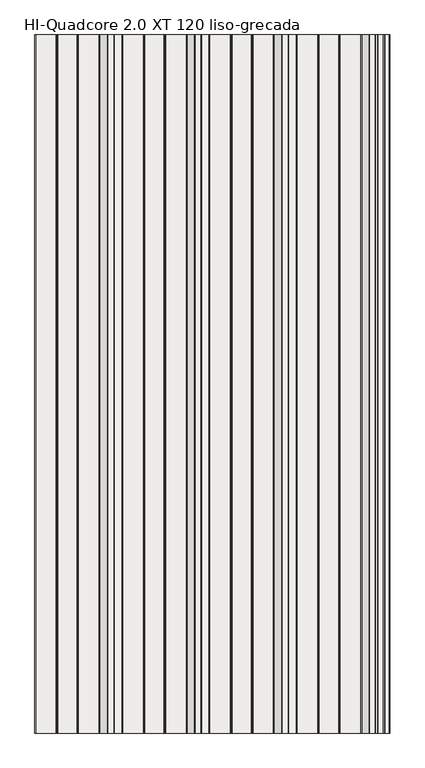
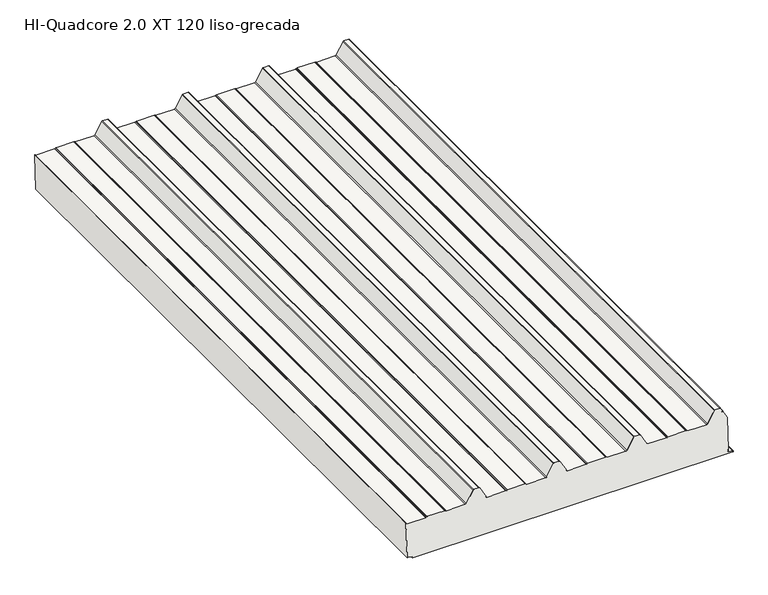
"""IFC4 building model written with IfcOpenShell, lengths in millimetres: slab geometry, HI_QuadCore2.0XT-XT DUAL : HI-Quadcore 2.0 XT 120 liso-grecada."""

from ifc_helpers import new_model, si_unit, frame, origin, place, context, project, spatial, polyline, circle_curve, source, transform, mapped, element, save
from ifc_brep_helpers import plane_surface, cylinder_surface, revolved_surface, advanced_brep


def hi_quadcore_2_0_xt_120_liso_grecada_48899863(model_context):
    return source(origin(), model_context, "Body", "AdvancedBrep", [
        advanced_brep(
        [(1181.036551, 0.0, 121.2667387), (1166.0442453, 0.0, 147.9197266), (1166.033201, 0.0, 145.939301), (1165.1031555, 0.0, 144.3282068), (1164.4103128, 0.0, 144.7281681), (1165.3403583, 0.0, 146.3392623), (1165.3469849, 0.0, 147.5275176), (1159.4120152, 0.0, 158.0785747), (1157.4945491, 0.0, 159.2), (1142.1184247, 0.0, 159.2), (1140.1940602, 0.0, 158.0662182), (1119.7447946, 0.0, 121.1583504), (1116.4208923, 0.0, 119.2), (1057.5510443, 0.0, 119.2), (1055.671532, 0.0, 119.6973596), (1053.5370944, 0.0, 120.912055), (1052.4489557, 0.0, 121.2), (997.5510443, 0.0, 121.2), (996.4629056, 0.0, 120.912055), (994.328468, 0.0, 119.6973596), (992.4489557, 0.0, 119.2), (934.2545425, 0.0, 119.2), (930.9425554, 0.0, 121.1370073), (910.1629237, 0.0, 158.0785747), (908.2454575, 0.0, 159.2), (891.7545425, 0.0, 159.2), (889.8370763, 0.0, 158.0785747), (869.0574446, 0.0, 121.1370073), (865.7454575, 0.0, 119.2), (807.5510443, 0.0, 119.2), (805.671532, 0.0, 119.6973596), (803.5370944, 0.0, 120.912055), (802.4489557, 0.0, 121.2), (747.5510443, 0.0, 121.2), (746.4629056, 0.0, 120.912055), (744.328468, 0.0, 119.6973596), (742.4489557, 0.0, 119.2), (684.2545425, 0.0, 119.2), (680.9425554, 0.0, 121.1370073), (660.1629237, 0.0, 158.0785747), (658.2454575, 0.0, 159.2), (641.7545425, 0.0, 159.2), (639.8370763, 0.0, 158.0785747), (619.0574446, 0.0, 121.1370073), (615.7454575, 0.0, 119.2), (557.5510443, 0.0, 119.2), (555.671532, 0.0, 119.6973596), (553.5370944, 0.0, 120.912055), (552.4489557, 0.0, 121.2), (497.5510443, 0.0, 121.2), (496.4629056, 0.0, 120.912055), (494.328468, 0.0, 119.6973596), (492.4489557, 0.0, 119.2), (434.2545425, 0.0, 119.2), (430.9425554, 0.0, 121.1370073), (410.1629237, 0.0, 158.0785747), (408.2454575, 0.0, 159.2), (391.7545425, 0.0, 159.2), (389.8370763, 0.0, 158.0785747), (369.0574446, 0.0, 121.1370073), (365.7454575, 0.0, 119.2), (307.5510443, 0.0, 119.2), (305.671532, 0.0, 119.6973596), (303.5370944, 0.0, 120.912055), (302.4489557, 0.0, 121.2), (247.5510443, 0.0, 121.2), (246.4629056, 0.0, 120.912055), (244.328468, 0.0, 119.6973596), (242.4489557, 0.0, 119.2), (184.6545425, 0.0, 119.2), (181.3052775, 0.0, 121.2048889), (184.4622222, 0.0, 7.0308356), (185.8457731, 0.0, 7.2414508), (185.8456418, 0.0, 11.9758652), (186.4313891, 0.0, 13.390095), (188.5375329, 0.0, 15.4963556), (189.1032183, 0.0, 14.9306702), (186.9970902, 0.0, 12.8244253), (186.6456418, 0.0, 11.9758874), (186.6457428, 0.0, 8.3337062), (187.7581044, 0.0, 7.1369439), (198.1768616, 0.0, 6.3740035), (200.7032632, 0.0, 3.5874804), (200.7033079, 0.0, 1.9756233), (201.9033408, 0.0, 0.7756565), (1197.9136557, 0.0, 0.8032689), (1199.1046782, 0.0, 2.0032686), (1199.104653, 0.0, 2.9118044), (1197.9581323, 0.0, 4.1105786), (1186.1323972, 0.0, 5.0061949), (1183.5438482, 0.0, 7.7981217), (1183.5455151, 0.0, 11.7461321), (1183.1910778, 0.0, 12.5938038), (1181.7779905, 0.0, 14.013532), (1182.3436759, 0.0, 14.5792175), (1183.757913, 0.0, 13.1650588), (181.3052775, 2000.0, 121.2048889), (184.6545425, 2000.0, 119.2), (242.4489557, 2000.0, 119.2), (244.328468, 2000.0, 119.6973596), (246.4629056, 2000.0, 120.912055), (247.5510443, 2000.0, 121.2), (302.4489557, 2000.0, 121.2), (303.5370944, 2000.0, 120.912055), (305.671532, 2000.0, 119.6973596), (307.5510443, 2000.0, 119.2), (365.7454575, 2000.0, 119.2), (369.0574446, 2000.0, 121.1370073), (389.8370763, 2000.0, 158.0785747), (391.7545425, 2000.0, 159.2), (408.2454575, 2000.0, 159.2), (410.1629237, 2000.0, 158.0785747), (430.9425554, 2000.0, 121.1370073), (434.2545425, 2000.0, 119.2), (492.4489557, 2000.0, 119.2), (494.328468, 2000.0, 119.6973596), (496.4629056, 2000.0, 120.912055), (497.5510443, 2000.0, 121.2), (552.4489557, 2000.0, 121.2), (553.5370944, 2000.0, 120.912055), (555.671532, 2000.0, 119.6973596), (557.5510443, 2000.0, 119.2), (615.7454575, 2000.0, 119.2), (619.0574446, 2000.0, 121.1370073), (639.8370763, 2000.0, 158.0785747), (641.7545425, 2000.0, 159.2), (658.2454575, 2000.0, 159.2), (660.1629237, 2000.0, 158.0785747), (680.9425554, 2000.0, 121.1370073), (684.2545425, 2000.0, 119.2), (742.4489557, 2000.0, 119.2), (744.328468, 2000.0, 119.6973596), (746.4629056, 2000.0, 120.912055), (747.5510443, 2000.0, 121.2), (802.4489557, 2000.0, 121.2), (803.5370944, 2000.0, 120.912055), (805.671532, 2000.0, 119.6973596), (807.5510443, 2000.0, 119.2), (865.7454575, 2000.0, 119.2), (869.0574446, 2000.0, 121.1370073), (889.8370763, 2000.0, 158.0785747), (891.7545425, 2000.0, 159.2), (908.2454575, 2000.0, 159.2), (910.1629237, 2000.0, 158.0785747), (930.9425554, 2000.0, 121.1370073), (934.2545425, 2000.0, 119.2), (992.4489557, 2000.0, 119.2), (994.328468, 2000.0, 119.6973596), (996.4629056, 2000.0, 120.912055), (997.5510443, 2000.0, 121.2), (1052.4489557, 2000.0, 121.2), (1053.5370944, 2000.0, 120.912055), (1055.671532, 2000.0, 119.6973596), (1057.5510443, 2000.0, 119.2), (1116.4208923, 2000.0, 119.2), (1119.7447946, 2000.0, 121.1583504), (1140.1940602, 2000.0, 158.0662182), (1142.1184247, 2000.0, 159.2), (1157.4945491, 2000.0, 159.2), (1159.4120152, 2000.0, 158.0785747), (1165.3469849, 2000.0, 147.5275176), (1165.3403583, 2000.0, 146.3392623), (1164.4103128, 2000.0, 144.7281681), (1165.1031555, 2000.0, 144.3282068), (1166.033201, 2000.0, 145.939301), (1166.0442453, 2000.0, 147.9197266), (1181.036551, 2000.0, 121.2667387), (1183.757913, 2000.0, 13.1650588), (1182.3436759, 2000.0, 14.5792175), (1181.7779905, 2000.0, 14.013532), (1183.1910778, 2000.0, 12.5938038), (1183.5455151, 2000.0, 11.7461321), (1183.5438482, 2000.0, 7.7981217), (1186.1323972, 2000.0, 5.0061949), (1197.9581323, 2000.0, 4.1105786), (1199.104653, 2000.0, 2.9118044), (1199.1046782, 2000.0, 2.0032686), (1197.9136557, 2000.0, 0.8032689), (201.9033408, 2000.0, 0.7756565), (200.7033079, 2000.0, 1.9756233), (200.7032632, 2000.0, 3.5874804), (198.1768616, 2000.0, 6.3740035), (187.7581044, 2000.0, 7.1369439), (186.6457428, 2000.0, 8.3337062), (186.6456418, 2000.0, 11.9758874), (186.9970902, 2000.0, 12.8244253), (189.1032183, 2000.0, 14.9306702), (188.5375329, 2000.0, 15.4963556), (186.4313891, 2000.0, 13.390095), (185.8456418, 2000.0, 11.9758652), (185.8457731, 2000.0, 7.2414508), (184.4622222, 2000.0, 7.0308356)],
        [
            (0, 1),
            (1, 2, circle_curve(frame((1164.3010942, 0.0, 146.9392041), z_axis=(0.0, 1.0, 0.0), x_axis=(1.0, 0.0, 0.0)), 2.0)),
            (2, 3),
            (3, 4),
            (4, 5),
            (5, 6, circle_curve(frame((1164.3010942, 0.0, 146.9392041), z_axis=(0.0, -1.0, 0.0), x_axis=(1.0, 0.0, 0.0)), 1.2)),
            (6, 7),
            (7, 8, circle_curve(frame((1157.4945491, 0.0, 157.0), z_axis=(0.0, -1.0, 0.0), x_axis=(1.0, 0.0, 0.0)), 2.2)),
            (8, 9),
            (9, 10, circle_curve(frame((1142.1184247, 0.0, 157.0), z_axis=(0.0, -1.0, 0.0), x_axis=(1.0, 0.0, 0.0)), 2.2)),
            (10, 11),
            (11, 12, circle_curve(frame((1116.4208923, 0.0, 123.0), z_axis=(0.0, 1.0, 0.0), x_axis=(1.0, 0.0, 0.0)), 3.8)),
            (12, 13),
            (13, 14, circle_curve(frame((1057.5510443, 0.0, 123.0), z_axis=(0.0, 1.0, 0.0), x_axis=(1.0, 0.0, 0.0)), 3.8)),
            (14, 15),
            (15, 16, circle_curve(frame((1052.4489557, 0.0, 119.0), z_axis=(0.0, -1.0, 0.0), x_axis=(1.0, 0.0, 0.0)), 2.2)),
            (16, 17),
            (17, 18, circle_curve(frame((997.5510443, 0.0, 119.0), z_axis=(0.0, -1.0, 0.0), x_axis=(1.0, 0.0, 0.0)), 2.2)),
            (18, 19),
            (19, 20, circle_curve(frame((992.4489557, 0.0, 123.0), z_axis=(0.0, 1.0, 0.0), x_axis=(1.0, 0.0, 0.0)), 3.8)),
            (20, 21),
            (21, 22, circle_curve(frame((934.2545425, 0.0, 123.0), z_axis=(0.0, 1.0, 0.0), x_axis=(1.0, 0.0, 0.0)), 3.8)),
            (22, 23),
            (23, 24, circle_curve(frame((908.2454575, 0.0, 157.0), z_axis=(0.0, -1.0, 0.0), x_axis=(1.0, 0.0, 0.0)), 2.2)),
            (24, 25),
            (25, 26, circle_curve(frame((891.7545425, 0.0, 157.0), z_axis=(0.0, -1.0, 0.0), x_axis=(1.0, 0.0, 0.0)), 2.2)),
            (26, 27),
            (27, 28, circle_curve(frame((865.7454575, 0.0, 123.0), z_axis=(0.0, 1.0, 0.0), x_axis=(1.0, 0.0, 0.0)), 3.8)),
            (28, 29),
            (29, 30, circle_curve(frame((807.5510443, 0.0, 123.0), z_axis=(0.0, 1.0, 0.0), x_axis=(1.0, 0.0, 0.0)), 3.8)),
            (30, 31),
            (31, 32, circle_curve(frame((802.4489557, 0.0, 119.0), z_axis=(0.0, -1.0, 0.0), x_axis=(1.0, 0.0, 0.0)), 2.2)),
            (32, 33),
            (33, 34, circle_curve(frame((747.5510443, 0.0, 119.0), z_axis=(0.0, -1.0, 0.0), x_axis=(1.0, 0.0, 0.0)), 2.2)),
            (34, 35),
            (35, 36, circle_curve(frame((742.4489557, 0.0, 123.0), z_axis=(0.0, 1.0, 0.0), x_axis=(1.0, 0.0, 0.0)), 3.8)),
            (36, 37),
            (37, 38, circle_curve(frame((684.2545425, 0.0, 123.0), z_axis=(0.0, 1.0, 0.0), x_axis=(1.0, 0.0, 0.0)), 3.8)),
            (38, 39),
            (39, 40, circle_curve(frame((658.2454575, 0.0, 157.0), z_axis=(0.0, -1.0, 0.0), x_axis=(1.0, 0.0, 0.0)), 2.2)),
            (40, 41),
            (41, 42, circle_curve(frame((641.7545425, 0.0, 157.0), z_axis=(0.0, -1.0, 0.0), x_axis=(1.0, 0.0, 0.0)), 2.2)),
            (42, 43),
            (43, 44, circle_curve(frame((615.7454575, 0.0, 123.0), z_axis=(0.0, 1.0, 0.0), x_axis=(1.0, 0.0, 0.0)), 3.8)),
            (44, 45),
            (45, 46, circle_curve(frame((557.5510443, 0.0, 123.0), z_axis=(0.0, 1.0, 0.0), x_axis=(1.0, 0.0, 0.0)), 3.8)),
            (46, 47),
            (47, 48, circle_curve(frame((552.4489557, 0.0, 119.0), z_axis=(0.0, -1.0, 0.0), x_axis=(1.0, 0.0, 0.0)), 2.2)),
            (48, 49),
            (49, 50, circle_curve(frame((497.5510443, 0.0, 119.0), z_axis=(0.0, -1.0, 0.0), x_axis=(1.0, 0.0, 0.0)), 2.2)),
            (50, 51),
            (51, 52, circle_curve(frame((492.4489557, 0.0, 123.0), z_axis=(0.0, 1.0, 0.0), x_axis=(1.0, 0.0, 0.0)), 3.8)),
            (52, 53),
            (53, 54, circle_curve(frame((434.2545425, 0.0, 123.0), z_axis=(0.0, 1.0, 0.0), x_axis=(1.0, 0.0, 0.0)), 3.8)),
            (54, 55),
            (55, 56, circle_curve(frame((408.2454575, 0.0, 157.0), z_axis=(0.0, -1.0, 0.0), x_axis=(1.0, 0.0, 0.0)), 2.2)),
            (56, 57),
            (57, 58, circle_curve(frame((391.7545425, 0.0, 157.0), z_axis=(0.0, -1.0, 0.0), x_axis=(1.0, 0.0, 0.0)), 2.2)),
            (58, 59),
            (59, 60, circle_curve(frame((365.7454575, 0.0, 123.0), z_axis=(0.0, 1.0, 0.0), x_axis=(1.0, 0.0, 0.0)), 3.8)),
            (60, 61),
            (61, 62, circle_curve(frame((307.5510443, 0.0, 123.0), z_axis=(0.0, 1.0, 0.0), x_axis=(1.0, 0.0, 0.0)), 3.8)),
            (62, 63),
            (63, 64, circle_curve(frame((302.4489557, 0.0, 119.0), z_axis=(0.0, -1.0, 0.0), x_axis=(1.0, 0.0, 0.0)), 2.2)),
            (64, 65),
            (65, 66, circle_curve(frame((247.5510443, 0.0, 119.0), z_axis=(0.0, -1.0, 0.0), x_axis=(1.0, 0.0, 0.0)), 2.2)),
            (66, 67),
            (67, 68, circle_curve(frame((242.4489557, 0.0, 123.0), z_axis=(0.0, 1.0, 0.0), x_axis=(1.0, 0.0, 0.0)), 3.8)),
            (68, 69),
            (69, 70, circle_curve(frame((184.6545425, 0.0, 123.0), z_axis=(0.0, 1.0, 0.0), x_axis=(1.0, 0.0, 0.0)), 3.8)),
            (70, 71),
            (71, 72),
            (72, 73),
            (73, 74, circle_curve(frame((187.8456418, 0.0, 11.9759207), z_axis=(0.0, 1.0, 0.0), x_axis=(1.0, 0.0, 0.0)), 2.0)),
            (74, 75),
            (75, 76),
            (76, 77),
            (77, 78, circle_curve(frame((187.8456418, 0.0, 11.9759207), z_axis=(0.0, -1.0, 0.0), x_axis=(1.0, 0.0, 0.0)), 1.2)),
            (78, 79),
            (79, 80, circle_curve(frame((187.8457428, 0.0, 8.3337394), z_axis=(0.0, -1.0, 0.0), x_axis=(1.0, 0.0, 0.0)), 1.2)),
            (80, 81),
            (81, 82, circle_curve(frame((197.9032632, 0.0, 3.5874027), z_axis=(0.0, 1.0, 0.0), x_axis=(1.0, 0.0, 0.0)), 2.8)),
            (82, 83),
            (83, 84, circle_curve(frame((201.9033076, 0.0, 1.9756562), z_axis=(0.0, -1.0, 0.0), x_axis=(1.0, 0.0, 0.0)), 1.1999997)),
            (84, 85),
            (85, 86, circle_curve(frame((1197.9046782, 0.0, 2.0032353), z_axis=(0.0, -1.0, 0.0), x_axis=(1.0, 0.0, 0.0)), 1.2)),
            (86, 87),
            (87, 88, circle_curve(frame((1197.9046533, 0.0, 2.9117711), z_axis=(0.0, -1.0, 0.0), x_axis=(1.0, 0.0, 0.0)), 1.1999997)),
            (88, 89),
            (89, 90, circle_curve(frame((1186.3438482, 0.0, 7.7981993), z_axis=(0.0, 1.0, 0.0), x_axis=(1.0, 0.0, 0.0)), 2.8)),
            (90, 91),
            (91, 92, circle_curve(frame((1182.3429645, 0.0, 11.7412455), z_axis=(0.0, -1.0, 0.0), x_axis=(1.0, 0.0, 0.0)), 1.2025605)),
            (92, 93),
            (93, 94),
            (94, 95),
            (95, 0),
            (96, 97, circle_curve(frame((184.6545425, 2000.0, 123.0), z_axis=(0.0, -1.0, 0.0), x_axis=(1.0, 0.0, 0.0)), 3.8)),
            (97, 98),
            (98, 99, circle_curve(frame((242.4489557, 2000.0, 123.0), z_axis=(0.0, -1.0, 0.0), x_axis=(1.0, 0.0, 0.0)), 3.8)),
            (99, 100),
            (100, 101, circle_curve(frame((247.5510443, 2000.0, 119.0), z_axis=(0.0, 1.0, 0.0), x_axis=(1.0, 0.0, 0.0)), 2.2)),
            (101, 102),
            (102, 103, circle_curve(frame((302.4489557, 2000.0, 119.0), z_axis=(0.0, 1.0, 0.0), x_axis=(1.0, 0.0, 0.0)), 2.2)),
            (103, 104),
            (104, 105, circle_curve(frame((307.5510443, 2000.0, 123.0), z_axis=(0.0, -1.0, 0.0), x_axis=(1.0, 0.0, 0.0)), 3.8)),
            (105, 106),
            (106, 107, circle_curve(frame((365.7454575, 2000.0, 123.0), z_axis=(0.0, -1.0, 0.0), x_axis=(1.0, 0.0, 0.0)), 3.8)),
            (107, 108),
            (108, 109, circle_curve(frame((391.7545425, 2000.0, 157.0), z_axis=(0.0, 1.0, 0.0), x_axis=(1.0, 0.0, 0.0)), 2.2)),
            (109, 110),
            (110, 111, circle_curve(frame((408.2454575, 2000.0, 157.0), z_axis=(0.0, 1.0, 0.0), x_axis=(1.0, 0.0, 0.0)), 2.2)),
            (111, 112),
            (112, 113, circle_curve(frame((434.2545425, 2000.0, 123.0), z_axis=(0.0, -1.0, 0.0), x_axis=(1.0, 0.0, 0.0)), 3.8)),
            (113, 114),
            (114, 115, circle_curve(frame((492.4489557, 2000.0, 123.0), z_axis=(0.0, -1.0, 0.0), x_axis=(1.0, 0.0, 0.0)), 3.8)),
            (115, 116),
            (116, 117, circle_curve(frame((497.5510443, 2000.0, 119.0), z_axis=(0.0, 1.0, 0.0), x_axis=(1.0, 0.0, 0.0)), 2.2)),
            (117, 118),
            (118, 119, circle_curve(frame((552.4489557, 2000.0, 119.0), z_axis=(0.0, 1.0, 0.0), x_axis=(1.0, 0.0, 0.0)), 2.2)),
            (119, 120),
            (120, 121, circle_curve(frame((557.5510443, 2000.0, 123.0), z_axis=(0.0, -1.0, 0.0), x_axis=(1.0, 0.0, 0.0)), 3.8)),
            (121, 122),
            (122, 123, circle_curve(frame((615.7454575, 2000.0, 123.0), z_axis=(0.0, -1.0, 0.0), x_axis=(1.0, 0.0, 0.0)), 3.8)),
            (123, 124),
            (124, 125, circle_curve(frame((641.7545425, 2000.0, 157.0), z_axis=(0.0, 1.0, 0.0), x_axis=(1.0, 0.0, 0.0)), 2.2)),
            (125, 126),
            (126, 127, circle_curve(frame((658.2454575, 2000.0, 157.0), z_axis=(0.0, 1.0, 0.0), x_axis=(1.0, 0.0, 0.0)), 2.2)),
            (127, 128),
            (128, 129, circle_curve(frame((684.2545425, 2000.0, 123.0), z_axis=(0.0, -1.0, 0.0), x_axis=(1.0, 0.0, 0.0)), 3.8)),
            (129, 130),
            (130, 131, circle_curve(frame((742.4489557, 2000.0, 123.0), z_axis=(0.0, -1.0, 0.0), x_axis=(1.0, 0.0, 0.0)), 3.8)),
            (131, 132),
            (132, 133, circle_curve(frame((747.5510443, 2000.0, 119.0), z_axis=(0.0, 1.0, 0.0), x_axis=(1.0, 0.0, 0.0)), 2.2)),
            (133, 134),
            (134, 135, circle_curve(frame((802.4489557, 2000.0, 119.0), z_axis=(0.0, 1.0, 0.0), x_axis=(1.0, 0.0, 0.0)), 2.2)),
            (135, 136),
            (136, 137, circle_curve(frame((807.5510443, 2000.0, 123.0), z_axis=(0.0, -1.0, 0.0), x_axis=(1.0, 0.0, 0.0)), 3.8)),
            (137, 138),
            (138, 139, circle_curve(frame((865.7454575, 2000.0, 123.0), z_axis=(0.0, -1.0, 0.0), x_axis=(1.0, 0.0, 0.0)), 3.8)),
            (139, 140),
            (140, 141, circle_curve(frame((891.7545425, 2000.0, 157.0), z_axis=(0.0, 1.0, 0.0), x_axis=(1.0, 0.0, 0.0)), 2.2)),
            (141, 142),
            (142, 143, circle_curve(frame((908.2454575, 2000.0, 157.0), z_axis=(0.0, 1.0, 0.0), x_axis=(1.0, 0.0, 0.0)), 2.2)),
            (143, 144),
            (144, 145, circle_curve(frame((934.2545425, 2000.0, 123.0), z_axis=(0.0, -1.0, 0.0), x_axis=(1.0, 0.0, 0.0)), 3.8)),
            (145, 146),
            (146, 147, circle_curve(frame((992.4489557, 2000.0, 123.0), z_axis=(0.0, -1.0, 0.0), x_axis=(1.0, 0.0, 0.0)), 3.8)),
            (147, 148),
            (148, 149, circle_curve(frame((997.5510443, 2000.0, 119.0), z_axis=(0.0, 1.0, 0.0), x_axis=(1.0, 0.0, 0.0)), 2.2)),
            (149, 150),
            (150, 151, circle_curve(frame((1052.4489557, 2000.0, 119.0), z_axis=(0.0, 1.0, 0.0), x_axis=(1.0, 0.0, 0.0)), 2.2)),
            (151, 152),
            (152, 153, circle_curve(frame((1057.5510443, 2000.0, 123.0), z_axis=(0.0, -1.0, 0.0), x_axis=(1.0, 0.0, 0.0)), 3.8)),
            (153, 154),
            (154, 155, circle_curve(frame((1116.4208923, 2000.0, 123.0), z_axis=(0.0, -1.0, 0.0), x_axis=(1.0, 0.0, 0.0)), 3.8)),
            (155, 156),
            (156, 157, circle_curve(frame((1142.1184247, 2000.0, 157.0), z_axis=(0.0, 1.0, 0.0), x_axis=(1.0, 0.0, 0.0)), 2.2)),
            (157, 158),
            (158, 159, circle_curve(frame((1157.4945491, 2000.0, 157.0), z_axis=(0.0, 1.0, 0.0), x_axis=(1.0, 0.0, 0.0)), 2.2)),
            (159, 160),
            (160, 161, circle_curve(frame((1164.3010942, 2000.0, 146.9392041), z_axis=(0.0, 1.0, 0.0), x_axis=(1.0, 0.0, 0.0)), 1.2)),
            (161, 162),
            (162, 163),
            (163, 164),
            (164, 165, circle_curve(frame((1164.3010942, 2000.0, 146.9392041), z_axis=(0.0, -1.0, 0.0), x_axis=(1.0, 0.0, 0.0)), 2.0)),
            (165, 166),
            (166, 167),
            (167, 168),
            (168, 169),
            (169, 170),
            (170, 171, circle_curve(frame((1182.3429645, 2000.0, 11.7412455), z_axis=(0.0, 1.0, 0.0), x_axis=(1.0, 0.0, 0.0)), 1.2025605)),
            (171, 172),
            (172, 173, circle_curve(frame((1186.3438482, 2000.0, 7.7981993), z_axis=(0.0, -1.0, 0.0), x_axis=(1.0, 0.0, 0.0)), 2.8)),
            (173, 174),
            (174, 175, circle_curve(frame((1197.9046533, 2000.0, 2.9117711), z_axis=(0.0, 1.0, 0.0), x_axis=(1.0, 0.0, 0.0)), 1.1999997)),
            (175, 176),
            (176, 177, circle_curve(frame((1197.9046782, 2000.0, 2.0032353), z_axis=(0.0, 1.0, 0.0), x_axis=(1.0, 0.0, 0.0)), 1.2)),
            (177, 178),
            (178, 179, circle_curve(frame((201.9033076, 2000.0, 1.9756562), z_axis=(0.0, 1.0, 0.0), x_axis=(1.0, 0.0, 0.0)), 1.1999997)),
            (179, 180),
            (180, 181, circle_curve(frame((197.9032632, 2000.0, 3.5874027), z_axis=(0.0, -1.0, 0.0), x_axis=(1.0, 0.0, 0.0)), 2.8)),
            (181, 182),
            (182, 183, circle_curve(frame((187.8457428, 2000.0, 8.3337394), z_axis=(0.0, 1.0, 0.0), x_axis=(1.0, 0.0, 0.0)), 1.2)),
            (183, 184),
            (184, 185, circle_curve(frame((187.8456418, 2000.0, 11.9759207), z_axis=(0.0, 1.0, 0.0), x_axis=(1.0, 0.0, 0.0)), 1.2)),
            (185, 186),
            (186, 187),
            (187, 188),
            (188, 189, circle_curve(frame((187.8456418, 2000.0, 11.9759207), z_axis=(0.0, -1.0, 0.0), x_axis=(1.0, 0.0, 0.0)), 2.0)),
            (189, 190),
            (190, 191),
            (191, 96),
            (0, 166),
            (165, 1),
            (164, 2),
            (163, 3),
            (162, 4),
            (161, 5),
            (160, 6),
            (159, 7),
            (158, 8),
            (157, 9),
            (156, 10),
            (155, 11),
            (154, 12),
            (153, 13),
            (152, 14),
            (151, 15),
            (150, 16),
            (149, 17),
            (148, 18),
            (147, 19),
            (146, 20),
            (145, 21),
            (144, 22),
            (143, 23),
            (142, 24),
            (141, 25),
            (140, 26),
            (139, 27),
            (138, 28),
            (137, 29),
            (136, 30),
            (135, 31),
            (134, 32),
            (133, 33),
            (132, 34),
            (131, 35),
            (130, 36),
            (129, 37),
            (128, 38),
            (127, 39),
            (126, 40),
            (125, 41),
            (124, 42),
            (123, 43),
            (122, 44),
            (121, 45),
            (120, 46),
            (119, 47),
            (118, 48),
            (117, 49),
            (116, 50),
            (115, 51),
            (114, 52),
            (113, 53),
            (112, 54),
            (111, 55),
            (110, 56),
            (109, 57),
            (108, 58),
            (107, 59),
            (106, 60),
            (105, 61),
            (104, 62),
            (103, 63),
            (102, 64),
            (101, 65),
            (100, 66),
            (99, 67),
            (98, 68),
            (97, 69),
            (96, 70),
            (191, 71),
            (95, 167),
            (76, 186),
            (185, 77),
            (184, 78),
            (183, 79),
            (182, 80),
            (181, 81),
            (180, 82),
            (179, 83),
            (86, 176),
            (175, 87),
            (174, 88),
            (173, 89),
            (172, 90),
            (171, 91),
            (75, 187),
            (72, 190),
            (189, 73),
            (188, 74),
            (170, 92),
            (169, 93),
            (168, 94),
            (178, 84),
            (177, 85),
        ],
        [
            plane_surface(frame((1181.1187881, 0.0, 118.0), z_axis=(0.0, -1.0, 0.0), x_axis=(1.0, 0.0, 0.0))),
            plane_surface(frame((1181.1187881, 2000.0, 118.0), z_axis=(0.0, 1.0, 0.0), x_axis=(-1.0, 0.0, 0.0))),
            plane_surface(frame((1181.036551, 0.0, 121.2667387), z_axis=(0.8715755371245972, 0.0, 0.4902612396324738), x_axis=(0.0, 1.0, 0.0))),
            revolved_surface(polyline([(1166.3010942, 2000.0, 146.9392041), (1166.3010942, 0.0, 146.9392041)]), (1164.3010942, 2000.0, 146.9392041), (0.0, 1.0, 0.0)),
            plane_surface(frame((1166.033201, 0.0, 145.939301), z_axis=(-0.8660533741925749, 0.0, 0.49995155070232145), x_axis=(0.0, 1.0, 0.0))),
            plane_surface(frame((1165.1031555, 0.0, 144.3282068), z_axis=(0.4999515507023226, 0.0, 0.8660533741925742), x_axis=(0.0, 1.0, 0.0))),
            plane_surface(frame((1164.4103128, 0.0, 144.7281681), z_axis=(0.8660533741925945, 0.0, -0.4999515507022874), x_axis=(0.0, 1.0, 0.0))),
            cylinder_surface(frame((1164.3010942, 2000.0, 146.9392041), z_axis=(0.0, -1.0, 0.0), x_axis=(1.0, 0.0, 0.0)), 1.2),
            plane_surface(frame((1165.3469849, 0.0, 147.5275176), z_axis=(0.8715755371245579, 0.0, 0.4902612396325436), x_axis=(0.0, 1.0, 0.0))),
            cylinder_surface(frame((1157.4945491, 2000.0, 157.0), z_axis=(0.0, -1.0, 0.0), x_axis=(1.0, 0.0, 0.0)), 2.2),
            plane_surface(frame((1157.4945491, 0.0, 159.2), z_axis=(0.0, 0.0, 1.0), x_axis=(0.0, 1.0, 0.0))),
            cylinder_surface(frame((1142.1184247, 2000.0, 157.0), z_axis=(0.0, -1.0, 0.0), x_axis=(1.0, 0.0, 0.0)), 2.2),
            plane_surface(frame((1140.1940602, 0.0, 158.0662182), z_axis=(-0.8747111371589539, 0.0, 0.48464463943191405), x_axis=(0.0, 1.0, 0.0))),
            revolved_surface(polyline([(1120.2208923, 2000.0, 123.0), (1120.2208923, 0.0, 123.0)]), (1116.4208923, 2000.0, 123.0), (0.0, 1.0, 0.0)),
            plane_surface(frame((1116.4208923, 0.0, 119.2), z_axis=(0.0, 0.0, 1.0), x_axis=(0.0, 1.0, 0.0))),
            revolved_surface(polyline([(1061.3510443, 2000.0, 123.0), (1061.3510443, 0.0, 123.0)]), (1057.5510443, 2000.0, 123.0), (0.0, 1.0, 0.0)),
            plane_surface(frame((1055.671532, 0.0, 119.6973596), z_axis=(0.49460850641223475, 0.0, 0.8691158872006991), x_axis=(0.0, 1.0, 0.0))),
            cylinder_surface(frame((1052.4489557, 2000.0, 119.0), z_axis=(0.0, -1.0, 0.0), x_axis=(1.0, 0.0, 0.0)), 2.2),
            plane_surface(frame((1052.4489557, 0.0, 121.2), z_axis=(0.0, 0.0, 1.0), x_axis=(0.0, 1.0, 0.0))),
            cylinder_surface(frame((997.5510443, 2000.0, 119.0), z_axis=(0.0, -1.0, 0.0), x_axis=(1.0, 0.0, 0.0)), 2.2),
            plane_surface(frame((996.4629056, 0.0, 120.912055), z_axis=(-0.49460850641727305, 0.0, 0.8691158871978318), x_axis=(0.0, 1.0, 0.0))),
            revolved_surface(polyline([(996.2489557, 2000.0, 123.0), (996.2489557, 0.0, 123.0)]), (992.4489557, 2000.0, 123.0), (0.0, 1.0, 0.0)),
            plane_surface(frame((992.4489557, 0.0, 119.2), z_axis=(0.0, 0.0, 1.0), x_axis=(0.0, 1.0, 0.0))),
            revolved_surface(polyline([(938.0545424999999, 2000.0, 123.0), (938.0545424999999, 0.0, 123.0)]), (934.2545425, 2000.0, 123.0), (0.0, 1.0, 0.0)),
            plane_surface(frame((930.9425554, 0.0, 121.1370073), z_axis=(0.8715755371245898, 0.0, 0.4902612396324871), x_axis=(0.0, 1.0, 0.0))),
            cylinder_surface(frame((908.2454575, 2000.0, 157.0), z_axis=(0.0, -1.0, 0.0), x_axis=(1.0, 0.0, 0.0)), 2.2),
            plane_surface(frame((908.2454575, 0.0, 159.2), z_axis=(0.0, 0.0, 1.0), x_axis=(0.0, 1.0, 0.0))),
            cylinder_surface(frame((891.7545425, 2000.0, 157.0), z_axis=(0.0, -1.0, 0.0), x_axis=(1.0, 0.0, 0.0)), 2.2),
            plane_surface(frame((889.8370763, 0.0, 158.0785747), z_axis=(-0.8715755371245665, 0.0, 0.49026123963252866), x_axis=(0.0, 1.0, 0.0))),
            revolved_surface(polyline([(869.5454575, 2000.0, 123.0), (869.5454575, 0.0, 123.0)]), (865.7454575, 2000.0, 123.0), (0.0, 1.0, 0.0)),
            plane_surface(frame((865.7454575, 0.0, 119.2), z_axis=(0.0, 0.0, 1.0), x_axis=(0.0, 1.0, 0.0))),
            revolved_surface(polyline([(811.3510442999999, 2000.0, 123.0), (811.3510442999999, 0.0, 123.0)]), (807.5510443, 2000.0, 123.0), (0.0, 1.0, 0.0)),
            plane_surface(frame((805.671532, 0.0, 119.6973596), z_axis=(0.49460850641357, 0.0, 0.8691158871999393), x_axis=(0.0, 1.0, 0.0))),
            cylinder_surface(frame((802.4489557, 2000.0, 119.0), z_axis=(0.0, -1.0, 0.0), x_axis=(1.0, 0.0, 0.0)), 2.2),
            plane_surface(frame((802.4489557, 0.0, 121.2), z_axis=(0.0, 0.0, 1.0), x_axis=(0.0, 1.0, 0.0))),
            cylinder_surface(frame((747.5510443, 2000.0, 119.0), z_axis=(0.0, -1.0, 0.0), x_axis=(1.0, 0.0, 0.0)), 2.2),
            plane_surface(frame((746.4629056, 0.0, 120.912055), z_axis=(-0.4946085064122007, 0.0, 0.8691158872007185), x_axis=(0.0, 1.0, 0.0))),
            revolved_surface(polyline([(746.2489557, 2000.0, 123.0), (746.2489557, 0.0, 123.0)]), (742.4489557, 2000.0, 123.0), (0.0, 1.0, 0.0)),
            plane_surface(frame((742.4489557, 0.0, 119.2), z_axis=(0.0, 0.0, 1.0), x_axis=(0.0, 1.0, 0.0))),
            revolved_surface(polyline([(688.0545424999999, 2000.0, 123.0), (688.0545424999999, 0.0, 123.0)]), (684.2545425, 2000.0, 123.0), (0.0, 1.0, 0.0)),
            plane_surface(frame((680.9425554, 0.0, 121.1370073), z_axis=(0.8715755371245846, 0.0, 0.49026123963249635), x_axis=(0.0, 1.0, 0.0))),
            cylinder_surface(frame((658.2454575, 2000.0, 157.0), z_axis=(0.0, -1.0, 0.0), x_axis=(1.0, 0.0, 0.0)), 2.2),
            plane_surface(frame((658.2454575, 0.0, 159.2), z_axis=(0.0, 0.0, 1.0), x_axis=(0.0, 1.0, 0.0))),
            cylinder_surface(frame((641.7545425, 2000.0, 157.0), z_axis=(0.0, -1.0, 0.0), x_axis=(1.0, 0.0, 0.0)), 2.2),
            plane_surface(frame((639.8370763, 0.0, 158.0785747), z_axis=(-0.8715755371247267, 0.0, 0.49026123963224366), x_axis=(0.0, 1.0, 0.0))),
            revolved_surface(polyline([(619.5454575, 2000.0, 123.0), (619.5454575, 0.0, 123.0)]), (615.7454575, 2000.0, 123.0), (0.0, 1.0, 0.0)),
            plane_surface(frame((615.7454575, 0.0, 119.2), z_axis=(0.0, 0.0, 1.0), x_axis=(0.0, 1.0, 0.0))),
            revolved_surface(polyline([(561.3510442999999, 2000.0, 123.0), (561.3510442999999, 0.0, 123.0)]), (557.5510443, 2000.0, 123.0), (0.0, 1.0, 0.0)),
            plane_surface(frame((555.671532, 0.0, 119.6973596), z_axis=(0.49460850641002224, 0.0, 0.8691158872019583), x_axis=(0.0, 1.0, 0.0))),
            cylinder_surface(frame((552.4489557, 2000.0, 119.0), z_axis=(0.0, -1.0, 0.0), x_axis=(1.0, 0.0, 0.0)), 2.2),
            plane_surface(frame((552.4489557, 0.0, 121.2), z_axis=(0.0, 0.0, 1.0), x_axis=(0.0, 1.0, 0.0))),
            cylinder_surface(frame((497.5510443, 2000.0, 119.0), z_axis=(0.0, -1.0, 0.0), x_axis=(1.0, 0.0, 0.0)), 2.2),
            plane_surface(frame((496.4629056, 0.0, 120.912055), z_axis=(-0.4946085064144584, 0.0, 0.8691158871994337), x_axis=(0.0, 1.0, 0.0))),
            revolved_surface(polyline([(496.2489557, 2000.0, 123.0), (496.2489557, 0.0, 123.0)]), (492.4489557, 2000.0, 123.0), (0.0, 1.0, 0.0)),
            plane_surface(frame((492.4489557, 0.0, 119.2), z_axis=(0.0, 0.0, 1.0), x_axis=(0.0, 1.0, 0.0))),
            revolved_surface(polyline([(438.0545425, 2000.0, 123.0), (438.0545425, 0.0, 123.0)]), (434.2545425, 2000.0, 123.0), (0.0, 1.0, 0.0)),
            plane_surface(frame((430.9425554, 0.0, 121.1370073), z_axis=(0.8715755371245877, 0.0, 0.49026123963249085), x_axis=(0.0, 1.0, 0.0))),
            cylinder_surface(frame((408.2454575, 2000.0, 157.0), z_axis=(0.0, -1.0, 0.0), x_axis=(1.0, 0.0, 0.0)), 2.2),
            plane_surface(frame((408.2454575, 0.0, 159.2), z_axis=(0.0, 0.0, 1.0), x_axis=(0.0, 1.0, 0.0))),
            cylinder_surface(frame((391.7545425, 2000.0, 157.0), z_axis=(0.0, -1.0, 0.0), x_axis=(1.0, 0.0, 0.0)), 2.2),
            plane_surface(frame((389.8370763, 0.0, 158.0785747), z_axis=(-0.8715755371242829, 0.0, 0.49026123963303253), x_axis=(0.0, 1.0, 0.0))),
            revolved_surface(polyline([(369.5454575, 2000.0, 123.0), (369.5454575, 0.0, 123.0)]), (365.7454575, 2000.0, 123.0), (0.0, 1.0, 0.0)),
            plane_surface(frame((365.7454575, 0.0, 119.2), z_axis=(0.0, 0.0, 1.0), x_axis=(0.0, 1.0, 0.0))),
            revolved_surface(polyline([(311.3510443, 2000.0, 123.0), (311.3510443, 0.0, 123.0)]), (307.5510443, 2000.0, 123.0), (0.0, 1.0, 0.0)),
            plane_surface(frame((305.671532, 0.0, 119.6973596), z_axis=(0.4946085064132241, 0.0, 0.8691158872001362), x_axis=(0.0, 1.0, 0.0))),
            cylinder_surface(frame((302.4489557, 2000.0, 119.0), z_axis=(0.0, -1.0, 0.0), x_axis=(1.0, 0.0, 0.0)), 2.2),
            plane_surface(frame((302.4489557, 0.0, 121.2), z_axis=(0.0, 0.0, 1.0), x_axis=(0.0, 1.0, 0.0))),
            cylinder_surface(frame((247.5510443, 2000.0, 119.0), z_axis=(0.0, -1.0, 0.0), x_axis=(1.0, 0.0, 0.0)), 2.2),
            plane_surface(frame((246.4629056, 0.0, 120.912055), z_axis=(-0.49460850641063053, 0.0, 0.8691158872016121), x_axis=(0.0, 1.0, 0.0))),
            revolved_surface(polyline([(246.2489557, 2000.0, 123.0), (246.2489557, 0.0, 123.0)]), (242.4489557, 2000.0, 123.0), (0.0, 1.0, 0.0)),
            plane_surface(frame((242.4489557, 0.0, 119.2), z_axis=(0.0, 0.0, 1.0), x_axis=(0.0, 1.0, 0.0))),
            revolved_surface(polyline([(188.4545425, 2000.0, 123.0), (188.4545425, 0.0, 123.0)]), (184.6545425, 2000.0, 123.0), (0.0, 1.0, 0.0)),
            plane_surface(frame((181.3052775, 0.0, 121.2048889), z_axis=(-0.9996179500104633, 0.0, -0.027639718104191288), x_axis=(0.0, 1.0, 0.0))),
            plane_surface(frame((1181.1187881, 0.0, 118.0), z_axis=(0.9996832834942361, 0.0, 0.02516610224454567), x_axis=(0.0, 1.0, 0.0))),
            plane_surface(frame((189.1032183, 0.0, 14.9306702), z_axis=(-0.7071263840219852, 0.0, 0.7070871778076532), x_axis=(0.0, 1.0, 0.0))),
            cylinder_surface(frame((187.8456418, 2000.0, 11.9759207), z_axis=(0.0, -1.0, 0.0), x_axis=(1.0, 0.0, 0.0)), 1.2),
            plane_surface(frame((186.6456418, 0.0, 11.9758874), z_axis=(-0.9999999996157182, 0.0, -2.772298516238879e-05), x_axis=(0.0, 1.0, 0.0))),
            cylinder_surface(frame((187.8457428, 2000.0, 8.3337394), z_axis=(0.0, -1.0, 0.0), x_axis=(1.0, 0.0, 0.0)), 1.2),
            plane_surface(frame((187.7581044, 0.0, 7.1369439), z_axis=(-0.07303203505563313, 0.0, -0.9973295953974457), x_axis=(0.0, 1.0, 0.0))),
            revolved_surface(polyline([(200.7032632, 2000.0, 3.5874027), (200.7032632, 0.0, 3.5874027)]), (197.9032632, 2000.0, 3.5874027), (0.0, 1.0, 0.0)),
            plane_surface(frame((200.7032632, 0.0, 3.5874804), z_axis=(-0.9999999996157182, 0.0, -2.7722983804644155e-05), x_axis=(0.0, 1.0, 0.0))),
            plane_surface(frame((1199.1046782, 0.0, 2.0032686), z_axis=(0.9999999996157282, 0.0, 2.77226229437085e-05), x_axis=(0.0, 1.0, 0.0))),
            cylinder_surface(frame((1197.9046533, 2000.0, 2.9117711), z_axis=(0.0, -1.0, 0.0), x_axis=(1.0, 0.0, 0.0)), 1.1999997),
            plane_surface(frame((1197.9581323, 0.0, 4.1105786), z_axis=(0.0755182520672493, 0.0, 0.9971444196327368), x_axis=(0.0, 1.0, 0.0))),
            revolved_surface(polyline([(1189.1438481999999, 2000.0, 7.7981993), (1189.1438481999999, 0.0, 7.7981993)]), (1186.3438482, 2000.0, 7.7981993), (0.0, 1.0, 0.0)),
            plane_surface(frame((1183.5438482, 0.0, 7.7981217), z_axis=(0.9999999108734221, 0.0, -0.00042220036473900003), x_axis=(0.0, 1.0, 0.0))),
            plane_surface(frame((188.5375329, 0.0, 15.4963556), z_axis=(-0.7071067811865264, 0.0, -0.7071067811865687), x_axis=(0.0, 1.0, 0.0))),
            plane_surface(frame((185.8457731, 0.0, 7.2414508), z_axis=(0.9999999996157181, 0.0, 2.7722985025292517e-05), x_axis=(0.0, 1.0, 0.0))),
            revolved_surface(polyline([(189.8456418, 2000.0, 11.9759207), (189.8456418, 0.0, 11.9759207)]), (187.8456418, 2000.0, 11.9759207), (0.0, 1.0, 0.0)),
            plane_surface(frame((186.4313891, 0.0, 13.390095), z_axis=(0.7071263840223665, 0.0, -0.707087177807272), x_axis=(0.0, 1.0, 0.0))),
            plane_surface(frame((184.4622222, 0.0, 7.0308356), z_axis=(0.15049424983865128, 0.0, -0.9886108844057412), x_axis=(0.0, 1.0, 0.0))),
            cylinder_surface(frame((1182.3429645, 2000.0, 11.7412455), z_axis=(0.0, -1.0, 0.0), x_axis=(1.0, 0.0, 0.0)), 1.2025605),
            plane_surface(frame((1183.1910778, 0.0, 12.5938038), z_axis=(0.7087624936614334, 0.0, 0.7054471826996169), x_axis=(0.0, 1.0, 0.0))),
            plane_surface(frame((1181.7779905, 0.0, 14.013532), z_axis=(0.7071067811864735, 0.0, -0.7071067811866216), x_axis=(0.0, 1.0, 0.0))),
            plane_surface(frame((1182.3436759, 0.0, 14.5792175), z_axis=(-0.7070871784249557, 0.0, -0.7071263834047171), x_axis=(0.0, 1.0, 0.0))),
            cylinder_surface(frame((201.9033076, 2000.0, 1.9756562), z_axis=(0.0, -1.0, 0.0), x_axis=(1.0, 0.0, 0.0)), 1.1999997),
            plane_surface(frame((201.9033408, 0.0, 0.7756565), z_axis=(2.7722985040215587e-05, 0.0, -0.9999999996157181), x_axis=(0.0, 1.0, 0.0))),
            cylinder_surface(frame((1197.9046782, 2000.0, 2.0032353), z_axis=(0.0, -1.0, 0.0), x_axis=(1.0, 0.0, 0.0)), 1.2),
        ],
        [
            (0, [[1, 2, 3, 4, 5, 6, 7, 8, 9, 10, 11, 12, 13, 14, 15, 16, 17, 18, 19, 20, 21, 22, 23, 24, 25, 26, 27, 28, 29, 30, 31, 32, 33, 34, 35, 36, 37, 38, 39, 40, 41, 42, 43, 44, 45, 46, 47, 48, 49, 50, 51, 52, 53, 54, 55, 56, 57, 58, 59, 60, 61, 62, 63, 64, 65, 66, 67, 68, 69, 70, 71, 72, 73, 74, 75, 76, 77, 78, 79, 80, 81, 82, 83, 84, 85, 86, 87, 88, 89, 90, 91, 92, 93, 94, 95, 96]]),
            (1, [[97, 98, 99, 100, 101, 102, 103, 104, 105, 106, 107, 108, 109, 110, 111, 112, 113, 114, 115, 116, 117, 118, 119, 120, 121, 122, 123, 124, 125, 126, 127, 128, 129, 130, 131, 132, 133, 134, 135, 136, 137, 138, 139, 140, 141, 142, 143, 144, 145, 146, 147, 148, 149, 150, 151, 152, 153, 154, 155, 156, 157, 158, 159, 160, 161, 162, 163, 164, 165, 166, 167, 168, 169, 170, 171, 172, 173, 174, 175, 176, 177, 178, 179, 180, 181, 182, 183, 184, 185, 186, 187, 188, 189, 190, 191, 192]]),
            (2, [[-1, 193, -166, 194]]),
            (3, [[-2, -194, -165, 195]]),
            (4, [[-3, -195, -164, 196]]),
            (5, [[-4, -196, -163, 197]]),
            (6, [[-5, -197, -162, 198]]),
            (7, [[-6, -198, -161, 199]]),
            (8, [[-7, -199, -160, 200]]),
            (9, [[-8, -200, -159, 201]]),
            (10, [[-9, -201, -158, 202]]),
            (11, [[-10, -202, -157, 203]]),
            (12, [[-11, -203, -156, 204]]),
            (13, [[-12, -204, -155, 205]]),
            (14, [[-13, -205, -154, 206]]),
            (15, [[-14, -206, -153, 207]]),
            (16, [[-15, -207, -152, 208]]),
            (17, [[-16, -208, -151, 209]]),
            (18, [[-17, -209, -150, 210]]),
            (19, [[-18, -210, -149, 211]]),
            (20, [[-19, -211, -148, 212]]),
            (21, [[-20, -212, -147, 213]]),
            (22, [[-21, -213, -146, 214]]),
            (23, [[-22, -214, -145, 215]]),
            (24, [[-23, -215, -144, 216]]),
            (25, [[-24, -216, -143, 217]]),
            (26, [[-25, -217, -142, 218]]),
            (27, [[-26, -218, -141, 219]]),
            (28, [[-27, -219, -140, 220]]),
            (29, [[-28, -220, -139, 221]]),
            (30, [[-29, -221, -138, 222]]),
            (31, [[-30, -222, -137, 223]]),
            (32, [[-31, -223, -136, 224]]),
            (33, [[-32, -224, -135, 225]]),
            (34, [[-33, -225, -134, 226]]),
            (35, [[-34, -226, -133, 227]]),
            (36, [[-35, -227, -132, 228]]),
            (37, [[-36, -228, -131, 229]]),
            (38, [[-37, -229, -130, 230]]),
            (39, [[-38, -230, -129, 231]]),
            (40, [[-39, -231, -128, 232]]),
            (41, [[-40, -232, -127, 233]]),
            (42, [[-41, -233, -126, 234]]),
            (43, [[-42, -234, -125, 235]]),
            (44, [[-43, -235, -124, 236]]),
            (45, [[-44, -236, -123, 237]]),
            (46, [[-45, -237, -122, 238]]),
            (47, [[-46, -238, -121, 239]]),
            (48, [[-47, -239, -120, 240]]),
            (49, [[-48, -240, -119, 241]]),
            (50, [[-49, -241, -118, 242]]),
            (51, [[-50, -242, -117, 243]]),
            (52, [[-51, -243, -116, 244]]),
            (53, [[-52, -244, -115, 245]]),
            (54, [[-53, -245, -114, 246]]),
            (55, [[-54, -246, -113, 247]]),
            (56, [[-55, -247, -112, 248]]),
            (57, [[-56, -248, -111, 249]]),
            (58, [[-57, -249, -110, 250]]),
            (59, [[-58, -250, -109, 251]]),
            (60, [[-59, -251, -108, 252]]),
            (61, [[-60, -252, -107, 253]]),
            (62, [[-61, -253, -106, 254]]),
            (63, [[-62, -254, -105, 255]]),
            (64, [[-63, -255, -104, 256]]),
            (65, [[-64, -256, -103, 257]]),
            (66, [[-65, -257, -102, 258]]),
            (67, [[-66, -258, -101, 259]]),
            (68, [[-67, -259, -100, 260]]),
            (69, [[-68, -260, -99, 261]]),
            (70, [[-69, -261, -98, 262]]),
            (71, [[-70, -262, -97, 263]]),
            (72, [[-71, -263, -192, 264]]),
            (73, [[-167, -193, -96, 265]]),
            (74, [[-77, 266, -186, 267]]),
            (75, [[-78, -267, -185, 268]]),
            (76, [[-79, -268, -184, 269]]),
            (77, [[-80, -269, -183, 270]]),
            (78, [[-81, -270, -182, 271]]),
            (79, [[-82, -271, -181, 272]]),
            (80, [[-83, -272, -180, 273]]),
            (81, [[-87, 274, -176, 275]]),
            (82, [[-88, -275, -175, 276]]),
            (83, [[-89, -276, -174, 277]]),
            (84, [[-90, -277, -173, 278]]),
            (85, [[-91, -278, -172, 279]]),
            (86, [[-76, 280, -187, -266]]),
            (87, [[-73, 281, -190, 282]]),
            (88, [[-74, -282, -189, 283]]),
            (89, [[-75, -283, -188, -280]]),
            (90, [[-72, -264, -191, -281]]),
            (91, [[-92, -279, -171, 284]]),
            (92, [[-93, -284, -170, 285]]),
            (93, [[-94, -285, -169, 286]]),
            (94, [[-95, -286, -168, -265]]),
            (95, [[-84, -273, -179, 287]]),
            (96, [[-85, -287, -178, 288]]),
            (97, [[-86, -288, -177, -274]]),
        ],
    ),
    ])


if __name__ == "__main__":
    model = new_model("IFC4")
    model_context = context("Model", 3, world=origin())
    ifc_project = project(units=[si_unit("LENGTHUNIT", "METRE", prefix="MILLI")], contexts=[model_context])
    site = spatial("IfcSite", under=ifc_project)
    building = spatial("IfcBuilding", under=site)
    placement = place(None, origin())
    hi_quadcore_2_0_xt_120_liso_grecada_shape = hi_quadcore_2_0_xt_120_liso_grecada_48899863(model_context)
    element("IfcSlab", 1, ObjectType="HI_QuadCore2.0XT-XT DUAL : HI-Quadcore 2.0 XT 120 liso-grecada", at=placement, inside=building, context=model_context, shape_type="MappedRepresentation", body=[
        mapped(hi_quadcore_2_0_xt_120_liso_grecada_shape, transform((0.0, 0.0, 0.0), x_axis=(1.0, 0.0, 0.0), y_axis=(0.0, 1.0, 0.0), z_axis=(0.0, 0.0, 1.0))),
    ])
    save(model, "model.ifc")
